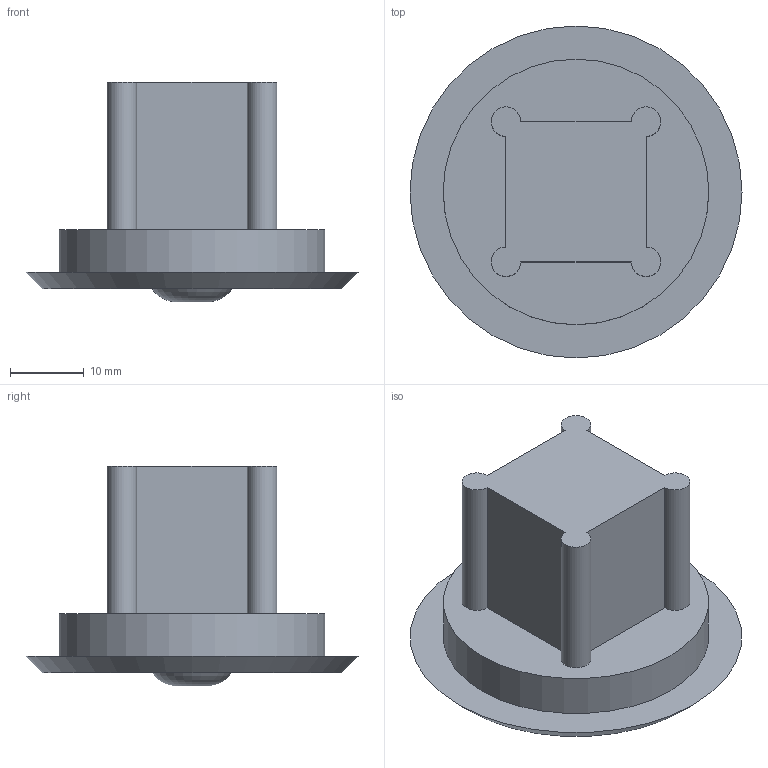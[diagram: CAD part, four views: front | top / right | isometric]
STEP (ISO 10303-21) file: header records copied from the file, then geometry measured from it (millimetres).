
FILE_DESCRIPTION(/* description */ ('STEP AP242','CAx-IF Rec.Pracs.---Representation and Presentation of Product Manufacturing Information (PMI)---4.0---2014-10-13','CAx-IF Rec.Pracs.---3D Tessellated Geometry---0.4---2014-09-14','2;1'),/* implementation_level */ '2;1');
FILE_NAME(/* name */ '102476860_(300)',/* time_stamp */ '2024-05-02T16:34:40+02:00',/* author */ ('License CC BY-ND 4.0'),/* organization */ ('CADENAS'),/* preprocessor_version */ 'ST-DEVELOPER v19.3',/* originating_system */ 'PARTsolutions',/* authorisation */ ' ');
FILE_SCHEMA (('AP242_MANAGED_MODEL_BASED_3D_ENGINEERING_MIM_LF { 1 0 10303 442 1 1 4 }'));
Length unit declared in the file: millimetre
Products named in the file (1): 102476860_(300)
Bounding box: 45 x 45 x 29.8 mm (x, y, z)
Volume: 15829.7 mm3; surface area: 6067.9 mm2
Topology: 1 solids, 1 shells, 18 faces, 36 edges, 24 vertices
Faces by surface type: plane 10, cylinder 5, cone 2, torus 1
Full cylindrical faces by diameter (mm): 36 x1
Entity records: 478 total; most frequent: DIRECTION 86, CARTESIAN_POINT 75, ORIENTED_EDGE 64, AXIS2_PLACEMENT_3D 35, EDGE_CURVE 32, EDGE_LOOP 26, FACE_BOUND 26, VERTEX_POINT 24
